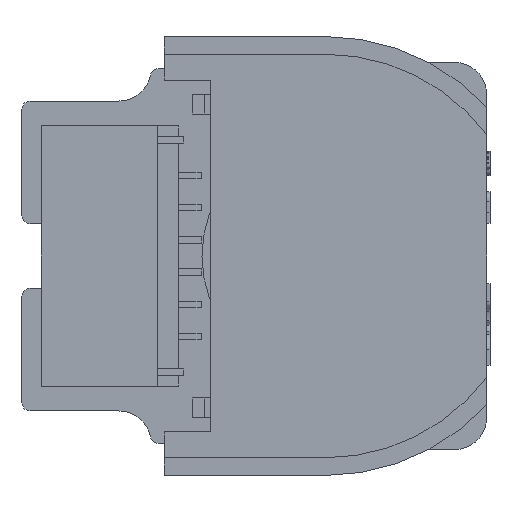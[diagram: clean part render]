
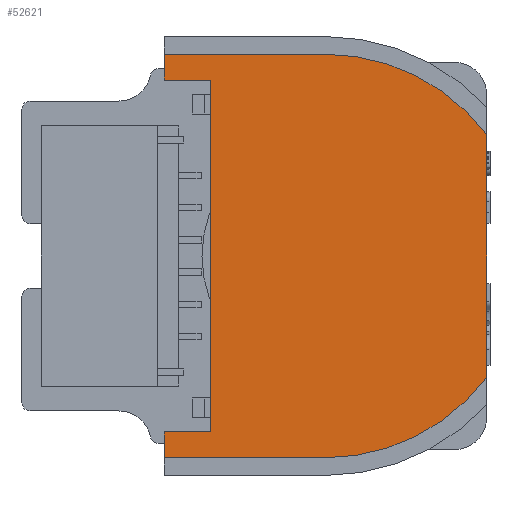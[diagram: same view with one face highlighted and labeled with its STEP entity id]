
A CAD part, left-side view. The second image highlights one B-rep face of the part: STEP entity #52621.
In plain terms, the highlighted planar face has unit normal (-1, 0, 0).
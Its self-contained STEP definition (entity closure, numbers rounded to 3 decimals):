
#191 = AXIS2_PLACEMENT_3D ( 'NONE', #144703, #25621, #73923 ) ;
#3081 = VECTOR ( 'NONE', #23257, 1000. ) ;
#7038 = VECTOR ( 'NONE', #128096, 1000. ) ;
#9826 = LINE ( 'NONE', #46981, #3081 ) ;
#11690 = VECTOR ( 'NONE', #44046, 1000. ) ;
#13872 = ORIENTED_EDGE ( 'NONE', *, *, #88768, .T. ) ;
#13924 = ORIENTED_EDGE ( 'NONE', *, *, #46633, .T. ) ;
#14562 = EDGE_CURVE ( 'NONE', #57866, #39812, #52961, .T. ) ;
#14885 = ORIENTED_EDGE ( 'NONE', *, *, #99019, .T. ) ;
#16142 = EDGE_CURVE ( 'NONE', #113491, #57866, #114219, .T. ) ;
#23257 = DIRECTION ( 'NONE',  ( 0., 1., 0. ) ) ;
#23337 = LINE ( 'NONE', #93886, #39247 ) ;
#24436 = LINE ( 'NONE', #85389, #134080 ) ;
#25422 = LINE ( 'NONE', #86379, #153094 ) ;
#25621 = DIRECTION ( 'NONE',  ( -1., 0., 0. ) ) ;
#28137 = DIRECTION ( 'NONE',  ( 0., 0., -1. ) ) ;
#29283 = DIRECTION ( 'NONE',  ( 0., 1., 0. ) ) ;
#31970 = EDGE_LOOP ( 'NONE', ( #126811, #93995, #14885, #33122, #147747, #13924, #13872, #150104, #119484, #117320 ) ) ;
#32401 = CARTESIAN_POINT ( 'NONE',  ( -22.6, 0., 0. ) ) ;
#33122 = ORIENTED_EDGE ( 'NONE', *, *, #117989, .T. ) ;
#33771 = DIRECTION ( 'NONE',  ( -1., 0., 0. ) ) ;
#35292 = VERTEX_POINT ( 'NONE', #109850 ) ;
#39247 = VECTOR ( 'NONE', #120885, 1000. ) ;
#39812 = VERTEX_POINT ( 'NONE', #103095 ) ;
#42360 = LINE ( 'NONE', #77250, #7038 ) ;
#44046 = DIRECTION ( 'NONE',  ( 0., 0., -1. ) ) ;
#46537 = VERTEX_POINT ( 'NONE', #66260 ) ;
#46633 = EDGE_CURVE ( 'NONE', #130698, #46537, #145011, .T. ) ;
#46981 = CARTESIAN_POINT ( 'NONE',  ( -22.6, 3.55, -5.45 ) ) ;
#48459 = CARTESIAN_POINT ( 'NONE',  ( -22.6, 0., 6.25 ) ) ;
#50547 = EDGE_CURVE ( 'NONE', #39812, #110173, #152870, .T. ) ;
#52621 = ADVANCED_FACE ( 'NONE', ( #78347 ), #138797, .T. ) ;
#52961 = LINE ( 'NONE', #138018, #55353 ) ;
#55353 = VECTOR ( 'NONE', #29283, 1000. ) ;
#57866 = VERTEX_POINT ( 'NONE', #48459 ) ;
#66260 = CARTESIAN_POINT ( 'NONE',  ( -22.6, -5., -3.75 ) ) ;
#72887 = EDGE_CURVE ( 'NONE', #110173, #78593, #42360, .T. ) ;
#73923 = DIRECTION ( 'NONE',  ( 0., 0., 1. ) ) ;
#75491 = VECTOR ( 'NONE', #82727, 1000. ) ;
#76459 = AXIS2_PLACEMENT_3D ( 'NONE', #142499, #33771, #82063 ) ;
#76687 = CARTESIAN_POINT ( 'NONE',  ( -22.6, 3.55, 5.45 ) ) ;
#77250 = CARTESIAN_POINT ( 'NONE',  ( -22.6, 5., 5.45 ) ) ;
#77839 = CARTESIAN_POINT ( 'NONE',  ( -22.6, 3.55, -5.45 ) ) ;
#78347 = FACE_OUTER_BOUND ( 'NONE', #31970, .T. ) ;
#78593 = VERTEX_POINT ( 'NONE', #76687 ) ;
#81965 = LINE ( 'NONE', #108169, #75491 ) ;
#82063 = DIRECTION ( 'NONE',  ( 0., 0., 1. ) ) ;
#82727 = DIRECTION ( 'NONE',  ( 0., 0., -1. ) ) ;
#85389 = CARTESIAN_POINT ( 'NONE',  ( -22.6, 3.55, 5.45 ) ) ;
#86379 = CARTESIAN_POINT ( 'NONE',  ( -22.6, -5., 3.473 ) ) ;
#88768 = EDGE_CURVE ( 'NONE', #46537, #113491, #25422, .T. ) ;
#93178 = CARTESIAN_POINT ( 'NONE',  ( -22.6, 5., 6. ) ) ;
#93886 = CARTESIAN_POINT ( 'NONE',  ( -22.6, 0., -6.25 ) ) ;
#93995 = ORIENTED_EDGE ( 'NONE', *, *, #143353, .T. ) ;
#97490 = CARTESIAN_POINT ( 'NONE',  ( -22.6, 5., 5.45 ) ) ;
#99019 = EDGE_CURVE ( 'NONE', #132704, #142844, #9826, .T. ) ;
#102237 = DIRECTION ( 'NONE',  ( -1., 0., 0. ) ) ;
#102956 = EDGE_CURVE ( 'NONE', #35292, #130698, #23337, .T. ) ;
#103095 = CARTESIAN_POINT ( 'NONE',  ( -22.6, 5., 6.25 ) ) ;
#108169 = CARTESIAN_POINT ( 'NONE',  ( -22.6, 5., 6. ) ) ;
#109850 = CARTESIAN_POINT ( 'NONE',  ( -22.6, 5., -6.25 ) ) ;
#110173 = VERTEX_POINT ( 'NONE', #97490 ) ;
#113491 = VERTEX_POINT ( 'NONE', #143505 ) ;
#114219 = CIRCLE ( 'NONE', #191, 6.25 ) ;
#117320 = ORIENTED_EDGE ( 'NONE', *, *, #50547, .T. ) ;
#117989 = EDGE_CURVE ( 'NONE', #142844, #35292, #81965, .T. ) ;
#119484 = ORIENTED_EDGE ( 'NONE', *, *, #14562, .T. ) ;
#120885 = DIRECTION ( 'NONE',  ( 0., -1., 0. ) ) ;
#121005 = AXIS2_PLACEMENT_3D ( 'NONE', #32401, #102237, #139542 ) ;
#126811 = ORIENTED_EDGE ( 'NONE', *, *, #72887, .T. ) ;
#128096 = DIRECTION ( 'NONE',  ( 0., -1., 0. ) ) ;
#130698 = VERTEX_POINT ( 'NONE', #138564 ) ;
#132704 = VERTEX_POINT ( 'NONE', #77839 ) ;
#133369 = DIRECTION ( 'NONE',  ( 0., 0., 1. ) ) ;
#134080 = VECTOR ( 'NONE', #28137, 1000. ) ;
#136611 = CARTESIAN_POINT ( 'NONE',  ( -22.6, 5., -5.45 ) ) ;
#138018 = CARTESIAN_POINT ( 'NONE',  ( -22.6, 5., 6.25 ) ) ;
#138564 = CARTESIAN_POINT ( 'NONE',  ( -22.6, 0., -6.25 ) ) ;
#138797 = PLANE ( 'NONE',  #121005 ) ;
#139542 = DIRECTION ( 'NONE',  ( 0., 0., 1. ) ) ;
#142499 = CARTESIAN_POINT ( 'NONE',  ( -22.6, 0., 0. ) ) ;
#142844 = VERTEX_POINT ( 'NONE', #136611 ) ;
#143353 = EDGE_CURVE ( 'NONE', #78593, #132704, #24436, .T. ) ;
#143505 = CARTESIAN_POINT ( 'NONE',  ( -22.6, -5., 3.75 ) ) ;
#144703 = CARTESIAN_POINT ( 'NONE',  ( -22.6, 0., 0. ) ) ;
#145011 = CIRCLE ( 'NONE', #76459, 6.25 ) ;
#147747 = ORIENTED_EDGE ( 'NONE', *, *, #102956, .T. ) ;
#150104 = ORIENTED_EDGE ( 'NONE', *, *, #16142, .T. ) ;
#152870 = LINE ( 'NONE', #93178, #11690 ) ;
#153094 = VECTOR ( 'NONE', #133369, 1000. ) ;
